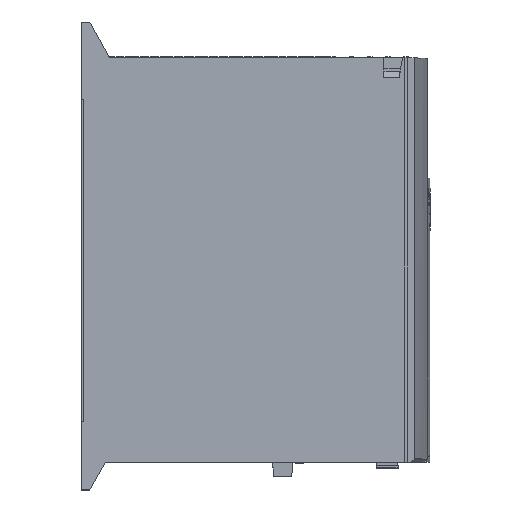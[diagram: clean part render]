
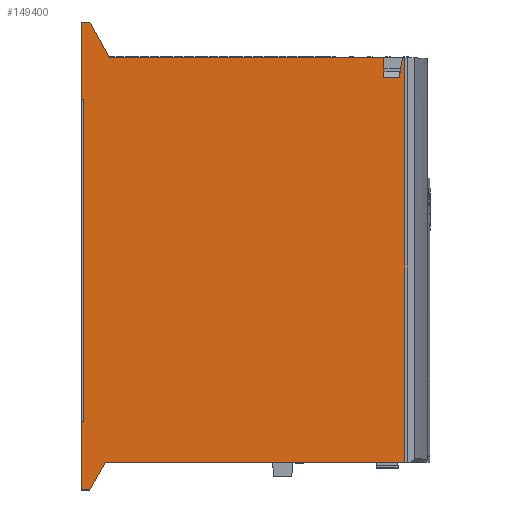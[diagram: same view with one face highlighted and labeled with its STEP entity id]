
A CAD part, top view. The second image highlights one B-rep face of the part: STEP entity #149400.
In plain terms, the highlighted planar face has unit normal (0, 0, 1) as drawn and (-1, 0, 0) by its records, which use the part's own axes.
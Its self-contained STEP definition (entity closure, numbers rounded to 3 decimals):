
#2403 = LINE ( 'NONE', #142425, #34908 ) ;
#3224 = CARTESIAN_POINT ( 'NONE',  ( -165., 290., 230.303 ) ) ;
#3375 = CARTESIAN_POINT ( 'NONE',  ( -165., 260.3, 0. ) ) ;
#9276 = VECTOR ( 'NONE', #154876, 1000. ) ;
#10274 = VECTOR ( 'NONE', #230047, 1000. ) ;
#11835 = VERTEX_POINT ( 'NONE', #66807 ) ;
#14272 = CARTESIAN_POINT ( 'NONE',  ( -165., 290., 20.3 ) ) ;
#14588 = CARTESIAN_POINT ( 'NONE',  ( -165., 275.944, 227.824 ) ) ;
#19716 = EDGE_CURVE ( 'NONE', #34152, #290906, #34418, .T. ) ;
#24963 = CARTESIAN_POINT ( 'NONE',  ( -165., 260.3, 0. ) ) ;
#26307 = CARTESIAN_POINT ( 'NONE',  ( -165., 290., 230.303 ) ) ;
#27140 = VECTOR ( 'NONE', #41903, 1000. ) ;
#27492 = ORIENTED_EDGE ( 'NONE', *, *, #60877, .T. ) ;
#28924 = DIRECTION ( 'NONE',  ( 0., 0., 1. ) ) ;
#31303 = VERTEX_POINT ( 'NONE', #157028 ) ;
#31751 = CARTESIAN_POINT ( 'NONE',  ( -165., -19.5, 6.3 ) ) ;
#33863 = EDGE_CURVE ( 'NONE', #81166, #172484, #157869, .T. ) ;
#34152 = VERTEX_POINT ( 'NONE', #290760 ) ;
#34418 = LINE ( 'NONE', #14588, #27140 ) ;
#34463 = LINE ( 'NONE', #173137, #42919 ) ;
#34908 = VECTOR ( 'NONE', #96710, 1000. ) ;
#41903 = DIRECTION ( 'NONE',  ( 0., 0., -1. ) ) ;
#42919 = VECTOR ( 'NONE', #220159, 1000. ) ;
#45097 = VECTOR ( 'NONE', #95681, 1000. ) ;
#46565 = CARTESIAN_POINT ( 'NONE',  ( -165., 315.5, 0. ) ) ;
#51762 = CARTESIAN_POINT ( 'NONE',  ( -165., 315.5, 0. ) ) ;
#52221 = CARTESIAN_POINT ( 'NONE',  ( -165., 29.4, 0. ) ) ;
#52724 = ORIENTED_EDGE ( 'NONE', *, *, #82552, .F. ) ;
#52805 = EDGE_CURVE ( 'NONE', #165881, #34152, #234496, .T. ) ;
#57569 = CARTESIAN_POINT ( 'NONE',  ( -165., 0., 17.3 ) ) ;
#59465 = VERTEX_POINT ( 'NONE', #24963 ) ;
#60877 = EDGE_CURVE ( 'NONE', #67886, #31303, #266150, .T. ) ;
#64535 = VECTOR ( 'NONE', #78441, 1000. ) ;
#66807 = CARTESIAN_POINT ( 'NONE',  ( -165., 29.4, 0. ) ) ;
#67245 = CARTESIAN_POINT ( 'NONE',  ( -165., 290., 0. ) ) ;
#67886 = VERTEX_POINT ( 'NONE', #228974 ) ;
#68291 = EDGE_CURVE ( 'NONE', #59465, #292533, #154211, .T. ) ;
#68767 = VECTOR ( 'NONE', #193055, 1000. ) ;
#72820 = CARTESIAN_POINT ( 'NONE',  ( -165., 0., 17.3 ) ) ;
#73853 = VECTOR ( 'NONE', #232877, 1000. ) ;
#74306 = AXIS2_PLACEMENT_3D ( 'NONE', #67245, #275828, #181531 ) ;
#74614 = LINE ( 'NONE', #51762, #240470 ) ;
#76384 = ORIENTED_EDGE ( 'NONE', *, *, #203766, .F. ) ;
#77912 = DIRECTION ( 'NONE',  ( 0., 1., 0. ) ) ;
#78441 = DIRECTION ( 'NONE',  ( 0., 1., 0. ) ) ;
#81166 = VERTEX_POINT ( 'NONE', #276352 ) ;
#82552 = EDGE_CURVE ( 'NONE', #132898, #81166, #74614, .T. ) ;
#89369 = VERTEX_POINT ( 'NONE', #256010 ) ;
#95681 = DIRECTION ( 'NONE',  ( 0., -0.871, -0.491 ) ) ;
#96710 = DIRECTION ( 'NONE',  ( 0., 1., 0. ) ) ;
#99738 = ORIENTED_EDGE ( 'NONE', *, *, #68291, .T. ) ;
#101871 = ORIENTED_EDGE ( 'NONE', *, *, #194244, .F. ) ;
#111006 = CARTESIAN_POINT ( 'NONE',  ( -165., 275.944, 216.709 ) ) ;
#111037 = CARTESIAN_POINT ( 'NONE',  ( -165., 290., 231.756 ) ) ;
#115534 = DIRECTION ( 'NONE',  ( 0., 0., 1. ) ) ;
#117329 = VECTOR ( 'NONE', #198770, 1000. ) ;
#119335 = VECTOR ( 'NONE', #115534, 1000. ) ;
#121826 = ORIENTED_EDGE ( 'NONE', *, *, #19716, .T. ) ;
#122857 = CARTESIAN_POINT ( 'NONE',  ( -165., -19.5, 0. ) ) ;
#131454 = LINE ( 'NONE', #14272, #73853 ) ;
#132898 = VERTEX_POINT ( 'NONE', #46565 ) ;
#142425 = CARTESIAN_POINT ( 'NONE',  ( -165., 29.4, 1.6 ) ) ;
#145155 = DIRECTION ( 'NONE',  ( 0., 0., 1. ) ) ;
#148437 = VERTEX_POINT ( 'NONE', #111037 ) ;
#148772 = EDGE_CURVE ( 'NONE', #221984, #292533, #2403, .T. ) ;
#149400 = ADVANCED_FACE ( 'NONE', ( #297132 ), #252968, .T. ) ;
#154211 = LINE ( 'NONE', #246923, #119335 ) ;
#154323 = ORIENTED_EDGE ( 'NONE', *, *, #52805, .T. ) ;
#154637 = CARTESIAN_POINT ( 'NONE',  ( -165., -19.5, 6.3 ) ) ;
#154876 = DIRECTION ( 'NONE',  ( 0., -0.877, 0.481 ) ) ;
#156825 = ORIENTED_EDGE ( 'NONE', *, *, #258421, .F. ) ;
#157028 = CARTESIAN_POINT ( 'NONE',  ( -165., 0., 231.756 ) ) ;
#157869 = LINE ( 'NONE', #250663, #9276 ) ;
#161877 = VECTOR ( 'NONE', #210765, 1000. ) ;
#165881 = VERTEX_POINT ( 'NONE', #26307 ) ;
#169499 = ORIENTED_EDGE ( 'NONE', *, *, #148772, .F. ) ;
#172484 = VERTEX_POINT ( 'NONE', #187245 ) ;
#173137 = CARTESIAN_POINT ( 'NONE',  ( -165., 275.944, 216.709 ) ) ;
#177244 = ORIENTED_EDGE ( 'NONE', *, *, #258854, .F. ) ;
#181531 = DIRECTION ( 'NONE',  ( 0., 0., 1. ) ) ;
#183471 = CARTESIAN_POINT ( 'NONE',  ( -165., 260.3, 1.6 ) ) ;
#184790 = EDGE_CURVE ( 'NONE', #242293, #231458, #244371, .T. ) ;
#185917 = ORIENTED_EDGE ( 'NONE', *, *, #215390, .F. ) ;
#187245 = CARTESIAN_POINT ( 'NONE',  ( -165., 290., 20.3 ) ) ;
#193055 = DIRECTION ( 'NONE',  ( 0., 0., 1. ) ) ;
#194139 = CARTESIAN_POINT ( 'NONE',  ( -165., -19.5, 0. ) ) ;
#194244 = EDGE_CURVE ( 'NONE', #148437, #31303, #276284, .T. ) ;
#198770 = DIRECTION ( 'NONE',  ( 0., 0., -1. ) ) ;
#203766 = EDGE_CURVE ( 'NONE', #165881, #148437, #287332, .T. ) ;
#210765 = DIRECTION ( 'NONE',  ( 0., -1., 0. ) ) ;
#211929 = LINE ( 'NONE', #3375, #231787 ) ;
#214595 = ORIENTED_EDGE ( 'NONE', *, *, #33863, .F. ) ;
#215390 = EDGE_CURVE ( 'NONE', #231458, #11835, #285482, .T. ) ;
#215606 = CARTESIAN_POINT ( 'NONE',  ( -165., 29.4, 1.6 ) ) ;
#220051 = EDGE_LOOP ( 'NONE', ( #154323, #121826, #266968, #255323, #214595, #52724, #253581, #99738, #169499, #177244, #185917, #299518, #156825, #27492, #101871, #76384 ) ) ;
#220159 = DIRECTION ( 'NONE',  ( 0., 1., 0. ) ) ;
#220437 = DIRECTION ( 'NONE',  ( 0., 0., 1. ) ) ;
#221984 = VERTEX_POINT ( 'NONE', #215606 ) ;
#225239 = EDGE_CURVE ( 'NONE', #172484, #89369, #131454, .T. ) ;
#228974 = CARTESIAN_POINT ( 'NONE',  ( -165., 0., 17.3 ) ) ;
#230047 = DIRECTION ( 'NONE',  ( 0., -0.985, -0.174 ) ) ;
#231458 = VERTEX_POINT ( 'NONE', #122857 ) ;
#231787 = VECTOR ( 'NONE', #77912, 1000. ) ;
#232877 = DIRECTION ( 'NONE',  ( 0., 0., 1. ) ) ;
#234124 = LINE ( 'NONE', #72820, #45097 ) ;
#234496 = LINE ( 'NONE', #3224, #10274 ) ;
#240470 = VECTOR ( 'NONE', #28924, 1000. ) ;
#242293 = VERTEX_POINT ( 'NONE', #31751 ) ;
#244371 = LINE ( 'NONE', #154637, #117329 ) ;
#244558 = VECTOR ( 'NONE', #220437, 1000. ) ;
#246923 = CARTESIAN_POINT ( 'NONE',  ( -165., 260.3, 0. ) ) ;
#249605 = VECTOR ( 'NONE', #145155, 1000. ) ;
#250663 = CARTESIAN_POINT ( 'NONE',  ( -165., 315.5, 6.3 ) ) ;
#252968 = PLANE ( 'NONE',  #74306 ) ;
#253581 = ORIENTED_EDGE ( 'NONE', *, *, #253973, .F. ) ;
#253973 = EDGE_CURVE ( 'NONE', #59465, #132898, #211929, .T. ) ;
#255323 = ORIENTED_EDGE ( 'NONE', *, *, #225239, .F. ) ;
#256010 = CARTESIAN_POINT ( 'NONE',  ( -165., 290., 216.709 ) ) ;
#258421 = EDGE_CURVE ( 'NONE', #67886, #242293, #234124, .T. ) ;
#258854 = EDGE_CURVE ( 'NONE', #11835, #221984, #286629, .T. ) ;
#262978 = CARTESIAN_POINT ( 'NONE',  ( -165., 290., 230.303 ) ) ;
#266150 = LINE ( 'NONE', #57569, #244558 ) ;
#266968 = ORIENTED_EDGE ( 'NONE', *, *, #281660, .T. ) ;
#275828 = DIRECTION ( 'NONE',  ( -1., 0., 0. ) ) ;
#276284 = LINE ( 'NONE', #280821, #161877 ) ;
#276352 = CARTESIAN_POINT ( 'NONE',  ( -165., 315.5, 6.3 ) ) ;
#280821 = CARTESIAN_POINT ( 'NONE',  ( -165., 290., 231.756 ) ) ;
#281660 = EDGE_CURVE ( 'NONE', #290906, #89369, #34463, .T. ) ;
#285482 = LINE ( 'NONE', #194139, #64535 ) ;
#286629 = LINE ( 'NONE', #52221, #249605 ) ;
#287332 = LINE ( 'NONE', #262978, #68767 ) ;
#290760 = CARTESIAN_POINT ( 'NONE',  ( -165., 275.944, 227.824 ) ) ;
#290906 = VERTEX_POINT ( 'NONE', #111006 ) ;
#292533 = VERTEX_POINT ( 'NONE', #183471 ) ;
#297132 = FACE_OUTER_BOUND ( 'NONE', #220051, .T. ) ;
#299518 = ORIENTED_EDGE ( 'NONE', *, *, #184790, .F. ) ;
